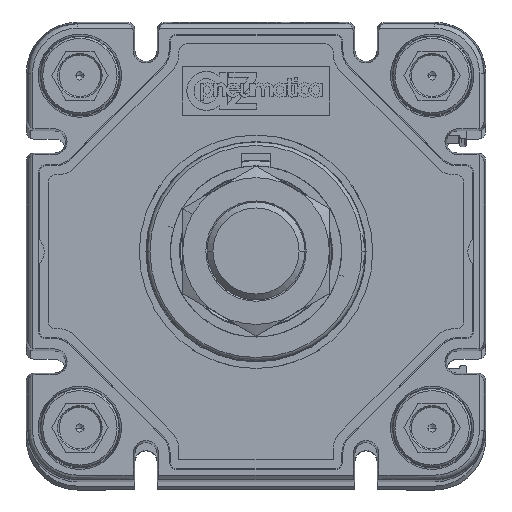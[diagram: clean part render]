
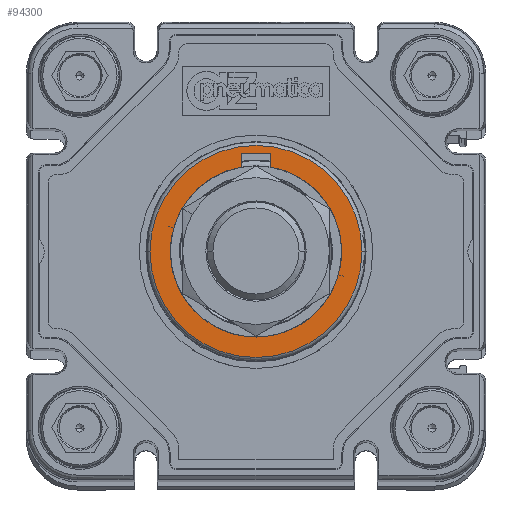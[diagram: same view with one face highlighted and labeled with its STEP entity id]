
A CAD part, top view. The second image highlights one B-rep face of the part: STEP entity #94300.
In plain terms, the highlighted planar face has unit normal (0, 0, 1) as drawn and (0, 0, -1) by its records, which use the part's own axes.
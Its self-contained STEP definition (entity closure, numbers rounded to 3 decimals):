
#1046 = CARTESIAN_POINT ( 'NONE',  ( 0., -17.5, -68.1 ) ) ;
#1888 = AXIS2_PLACEMENT_3D ( 'NONE', #17523, #25999, #48184 ) ;
#2376 = CARTESIAN_POINT ( 'NONE',  ( -3., 20., -68.1 ) ) ;
#2767 = EDGE_CURVE ( 'NONE', #11376, #12179, #73303, .T. ) ;
#2995 = LINE ( 'NONE', #44601, #35708 ) ;
#3258 = VECTOR ( 'NONE', #44745, 1000. ) ;
#5692 = LINE ( 'NONE', #20864, #3258 ) ;
#5815 = CARTESIAN_POINT ( 'NONE',  ( 0., 0., -68.1 ) ) ;
#8566 = ORIENTED_EDGE ( 'NONE', *, *, #63508, .F. ) ;
#8743 = CIRCLE ( 'NONE', #69520, 21.674 ) ;
#9451 = VERTEX_POINT ( 'NONE', #74929 ) ;
#9629 = DIRECTION ( 'NONE',  ( 0., 0., -1. ) ) ;
#11376 = VERTEX_POINT ( 'NONE', #34600 ) ;
#12179 = VERTEX_POINT ( 'NONE', #12623 ) ;
#12623 = CARTESIAN_POINT ( 'NONE',  ( -3., 17.241, -68.1 ) ) ;
#15250 = ORIENTED_EDGE ( 'NONE', *, *, #49051, .T. ) ;
#16650 = CIRCLE ( 'NONE', #1888, 17.5 ) ;
#17523 = CARTESIAN_POINT ( 'NONE',  ( 0., 0., -68.1 ) ) ;
#20463 = CARTESIAN_POINT ( 'NONE',  ( 3., 20., -68.1 ) ) ;
#20864 = CARTESIAN_POINT ( 'NONE',  ( 3., 20., -68.1 ) ) ;
#20954 = ORIENTED_EDGE ( 'NONE', *, *, #87806, .F. ) ;
#25999 = DIRECTION ( 'NONE',  ( 0., 0., 1. ) ) ;
#27167 = DIRECTION ( 'NONE',  ( 0., 0., 1. ) ) ;
#29492 = DIRECTION ( 'NONE',  ( -1., 0., 0. ) ) ;
#31748 = DIRECTION ( 'NONE',  ( 0., 0., 1. ) ) ;
#33910 = DIRECTION ( 'NONE',  ( -1., 0., 0. ) ) ;
#33953 = AXIS2_PLACEMENT_3D ( 'NONE', #70958, #9629, #47386 ) ;
#34600 = CARTESIAN_POINT ( 'NONE',  ( -3., 20., -68.1 ) ) ;
#35045 = EDGE_CURVE ( 'NONE', #59512, #11376, #2995, .T. ) ;
#35708 = VECTOR ( 'NONE', #53326, 1000. ) ;
#38701 = EDGE_CURVE ( 'NONE', #58558, #84385, #16650, .T. ) ;
#42393 = CARTESIAN_POINT ( 'NONE',  ( -21.674, 0., -68.1 ) ) ;
#42522 = FACE_BOUND ( 'NONE', #92745, .T. ) ;
#44574 = ORIENTED_EDGE ( 'NONE', *, *, #2767, .T. ) ;
#44601 = CARTESIAN_POINT ( 'NONE',  ( 3., 20., -68.1 ) ) ;
#44745 = DIRECTION ( 'NONE',  ( 0., 1., 0. ) ) ;
#45858 = CARTESIAN_POINT ( 'NONE',  ( 0., 0., -68.1 ) ) ;
#47386 = DIRECTION ( 'NONE',  ( -1., 0., 0. ) ) ;
#48184 = DIRECTION ( 'NONE',  ( 0., -1., 0. ) ) ;
#49051 = EDGE_CURVE ( 'NONE', #12179, #58558, #87234, .T. ) ;
#50004 = CARTESIAN_POINT ( 'NONE',  ( 0., 0., -68.1 ) ) ;
#52678 = EDGE_LOOP ( 'NONE', ( #20954, #8566 ) ) ;
#53326 = DIRECTION ( 'NONE',  ( -1., 0., 0. ) ) ;
#57977 = ORIENTED_EDGE ( 'NONE', *, *, #38701, .T. ) ;
#58558 = VERTEX_POINT ( 'NONE', #1046 ) ;
#59512 = VERTEX_POINT ( 'NONE', #20463 ) ;
#61714 = CARTESIAN_POINT ( 'NONE',  ( 3., 17.241, -68.1 ) ) ;
#63508 = EDGE_CURVE ( 'NONE', #9451, #78738, #70791, .T. ) ;
#64185 = FACE_OUTER_BOUND ( 'NONE', #52678, .T. ) ;
#65072 = AXIS2_PLACEMENT_3D ( 'NONE', #45858, #31748, #69797 ) ;
#66811 = ORIENTED_EDGE ( 'NONE', *, *, #82926, .T. ) ;
#67222 = DIRECTION ( 'NONE',  ( 0., 0., 1. ) ) ;
#69520 = AXIS2_PLACEMENT_3D ( 'NONE', #5815, #67222, #29492 ) ;
#69797 = DIRECTION ( 'NONE',  ( 0., -1., 0. ) ) ;
#70403 = AXIS2_PLACEMENT_3D ( 'NONE', #50004, #27167, #33910 ) ;
#70791 = CIRCLE ( 'NONE', #70403, 21.674 ) ;
#70958 = CARTESIAN_POINT ( 'NONE',  ( 0., 0., -68.1 ) ) ;
#71306 = ORIENTED_EDGE ( 'NONE', *, *, #35045, .T. ) ;
#73303 = LINE ( 'NONE', #2376, #81740 ) ;
#74929 = CARTESIAN_POINT ( 'NONE',  ( 21.674, 0., -68.1 ) ) ;
#78738 = VERTEX_POINT ( 'NONE', #42393 ) ;
#81740 = VECTOR ( 'NONE', #95158, 1000. ) ;
#82926 = EDGE_CURVE ( 'NONE', #84385, #59512, #5692, .T. ) ;
#84385 = VERTEX_POINT ( 'NONE', #61714 ) ;
#87234 = CIRCLE ( 'NONE', #65072, 17.5 ) ;
#87806 = EDGE_CURVE ( 'NONE', #78738, #9451, #8743, .T. ) ;
#92745 = EDGE_LOOP ( 'NONE', ( #44574, #15250, #57977, #66811, #71306 ) ) ;
#93260 = PLANE ( 'NONE',  #33953 ) ;
#94300 = ADVANCED_FACE ( 'NONE', ( #64185, #42522 ), #93260, .T. ) ;
#95158 = DIRECTION ( 'NONE',  ( 0., -1., 0. ) ) ;
